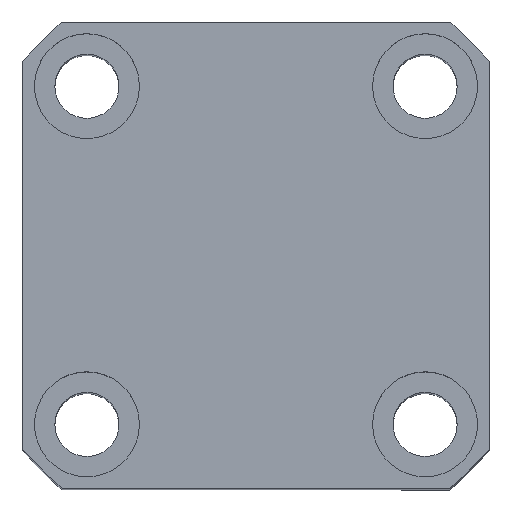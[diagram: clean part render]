
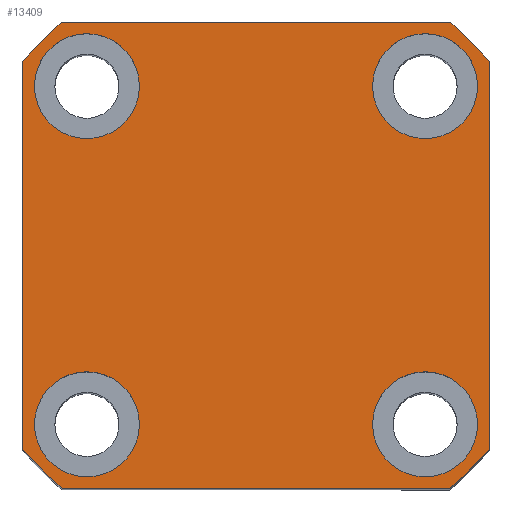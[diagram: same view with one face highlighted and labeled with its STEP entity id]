
A CAD part, top view. The second image highlights one B-rep face of the part: STEP entity #13409.
In plain terms, the highlighted planar face has unit normal (0, 0, 1).
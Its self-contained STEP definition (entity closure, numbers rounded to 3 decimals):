
#40 = VERTEX_POINT ( 'NONE', #4918 ) ;
#42 = CARTESIAN_POINT ( 'NONE',  ( -29., 29., 77.5 ) ) ;
#57 = EDGE_CURVE ( 'NONE', #14436, #8020, #3162, .T. ) ;
#196 = DIRECTION ( 'NONE',  ( 0., 0., 1. ) ) ;
#223 = CARTESIAN_POINT ( 'NONE',  ( 33.226, -40., 77.5 ) ) ;
#313 = DIRECTION ( 'NONE',  ( 0., 0., 1. ) ) ;
#467 = DIRECTION ( 'NONE',  ( 0., 0., 1. ) ) ;
#651 = AXIS2_PLACEMENT_3D ( 'NONE', #4004, #7272, #8402 ) ;
#722 = VERTEX_POINT ( 'NONE', #14266 ) ;
#785 = EDGE_CURVE ( 'NONE', #8020, #9968, #1554, .T. ) ;
#815 = DIRECTION ( 'NONE',  ( 1., 0., 0. ) ) ;
#848 = AXIS2_PLACEMENT_3D ( 'NONE', #42, #196, #9161 ) ;
#917 = CARTESIAN_POINT ( 'NONE',  ( -38., 29., 77.5 ) ) ;
#941 = CIRCLE ( 'NONE', #8371, 9. ) ;
#1349 = EDGE_CURVE ( 'NONE', #2205, #4900, #4366, .T. ) ;
#1404 = VERTEX_POINT ( 'NONE', #3071 ) ;
#1521 = DIRECTION ( 'NONE',  ( 1., 0., 0. ) ) ;
#1554 = LINE ( 'NONE', #8767, #12448 ) ;
#1737 = CARTESIAN_POINT ( 'NONE',  ( -29., 29., 77.5 ) ) ;
#1824 = ORIENTED_EDGE ( 'NONE', *, *, #8186, .T. ) ;
#1828 = LINE ( 'NONE', #3862, #4707 ) ;
#1883 = CARTESIAN_POINT ( 'NONE',  ( -20., 29., 77.5 ) ) ;
#2017 = CARTESIAN_POINT ( 'NONE',  ( -20., -29., 77.5 ) ) ;
#2145 = DIRECTION ( 'NONE',  ( 0., -1., 0. ) ) ;
#2169 = ORIENTED_EDGE ( 'NONE', *, *, #4666, .F. ) ;
#2191 = CIRCLE ( 'NONE', #6853, 9. ) ;
#2205 = VERTEX_POINT ( 'NONE', #223 ) ;
#2253 = DIRECTION ( 'NONE',  ( 0., 0., 1. ) ) ;
#2628 = EDGE_CURVE ( 'NONE', #9968, #40, #5794, .T. ) ;
#2639 = DIRECTION ( 'NONE',  ( 0., 0., 1. ) ) ;
#2853 = CARTESIAN_POINT ( 'NONE',  ( -33.226, 40., 77.5 ) ) ;
#2890 = EDGE_LOOP ( 'NONE', ( #6733, #8004, #1824, #4550, #7102, #3010, #13913, #12627 ) ) ;
#3010 = ORIENTED_EDGE ( 'NONE', *, *, #13060, .T. ) ;
#3071 = CARTESIAN_POINT ( 'NONE',  ( -40., -33.226, 77.5 ) ) ;
#3125 = AXIS2_PLACEMENT_3D ( 'NONE', #10380, #5892, #5743 ) ;
#3162 = CIRCLE ( 'NONE', #5419, 52. ) ;
#3308 = ORIENTED_EDGE ( 'NONE', *, *, #5573, .F. ) ;
#3451 = EDGE_CURVE ( 'NONE', #722, #12836, #4156, .T. ) ;
#3645 = DIRECTION ( 'NONE',  ( 0., 0., 1. ) ) ;
#3862 = CARTESIAN_POINT ( 'NONE',  ( -33.226, -40., 77.5 ) ) ;
#3980 = DIRECTION ( 'NONE',  ( 1., 0., 0. ) ) ;
#3999 = EDGE_CURVE ( 'NONE', #4669, #2205, #1828, .T. ) ;
#4004 = CARTESIAN_POINT ( 'NONE',  ( 29., -29., 77.5 ) ) ;
#4110 = FACE_OUTER_BOUND ( 'NONE', #2890, .T. ) ;
#4156 = CIRCLE ( 'NONE', #9112, 9. ) ;
#4303 = CIRCLE ( 'NONE', #4549, 9. ) ;
#4366 = CIRCLE ( 'NONE', #6861, 52. ) ;
#4461 = FACE_BOUND ( 'NONE', #7949, .T. ) ;
#4549 = AXIS2_PLACEMENT_3D ( 'NONE', #14132, #467, #13086 ) ;
#4550 = ORIENTED_EDGE ( 'NONE', *, *, #3999, .T. ) ;
#4634 = VECTOR ( 'NONE', #5052, 1000. ) ;
#4666 = EDGE_CURVE ( 'NONE', #14755, #9790, #7376, .T. ) ;
#4669 = VERTEX_POINT ( 'NONE', #8184 ) ;
#4707 = VECTOR ( 'NONE', #1521, 1000. ) ;
#4714 = CARTESIAN_POINT ( 'NONE',  ( -29., -29., 77.5 ) ) ;
#4862 = CIRCLE ( 'NONE', #651, 9. ) ;
#4900 = VERTEX_POINT ( 'NONE', #11248 ) ;
#4918 = CARTESIAN_POINT ( 'NONE',  ( -40., 33.226, 77.5 ) ) ;
#5052 = DIRECTION ( 'NONE',  ( 0., 1., 0. ) ) ;
#5125 = DIRECTION ( 'NONE',  ( 0., 0., 1. ) ) ;
#5328 = AXIS2_PLACEMENT_3D ( 'NONE', #12644, #2253, #5863 ) ;
#5336 = EDGE_LOOP ( 'NONE', ( #6966, #2169 ) ) ;
#5419 = AXIS2_PLACEMENT_3D ( 'NONE', #9228, #313, #10434 ) ;
#5573 = EDGE_CURVE ( 'NONE', #12617, #13883, #4303, .T. ) ;
#5743 = DIRECTION ( 'NONE',  ( 1., 0., 0. ) ) ;
#5794 = CIRCLE ( 'NONE', #3125, 52. ) ;
#5863 = DIRECTION ( 'NONE',  ( 1., 0., 0. ) ) ;
#5892 = DIRECTION ( 'NONE',  ( 0., 0., 1. ) ) ;
#5999 = AXIS2_PLACEMENT_3D ( 'NONE', #9742, #6512, #815 ) ;
#6111 = LINE ( 'NONE', #12392, #14477 ) ;
#6242 = EDGE_CURVE ( 'NONE', #40, #1404, #6111, .T. ) ;
#6248 = CARTESIAN_POINT ( 'NONE',  ( 20., 29., 77.5 ) ) ;
#6300 = ORIENTED_EDGE ( 'NONE', *, *, #3451, .F. ) ;
#6427 = CARTESIAN_POINT ( 'NONE',  ( 0., 0., 77.5 ) ) ;
#6432 = VERTEX_POINT ( 'NONE', #7605 ) ;
#6512 = DIRECTION ( 'NONE',  ( 0., 0., 1. ) ) ;
#6623 = DIRECTION ( 'NONE',  ( 1., 0., 0. ) ) ;
#6733 = ORIENTED_EDGE ( 'NONE', *, *, #2628, .T. ) ;
#6853 = AXIS2_PLACEMENT_3D ( 'NONE', #4714, #7021, #11608 ) ;
#6861 = AXIS2_PLACEMENT_3D ( 'NONE', #12165, #12215, #7769 ) ;
#6966 = ORIENTED_EDGE ( 'NONE', *, *, #7672, .F. ) ;
#7021 = DIRECTION ( 'NONE',  ( 0., 0., 1. ) ) ;
#7102 = ORIENTED_EDGE ( 'NONE', *, *, #1349, .T. ) ;
#7146 = EDGE_LOOP ( 'NONE', ( #6300, #11672 ) ) ;
#7268 = EDGE_CURVE ( 'NONE', #12836, #722, #4862, .T. ) ;
#7272 = DIRECTION ( 'NONE',  ( 0., 0., 1. ) ) ;
#7376 = CIRCLE ( 'NONE', #11077, 9. ) ;
#7388 = VERTEX_POINT ( 'NONE', #2017 ) ;
#7463 = DIRECTION ( 'NONE',  ( 1., 0., 0. ) ) ;
#7496 = DIRECTION ( 'NONE',  ( -1., 0., 0. ) ) ;
#7605 = CARTESIAN_POINT ( 'NONE',  ( -38., -29., 77.5 ) ) ;
#7672 = EDGE_CURVE ( 'NONE', #9790, #14755, #8930, .T. ) ;
#7769 = DIRECTION ( 'NONE',  ( 1., 0., 0. ) ) ;
#7949 = EDGE_LOOP ( 'NONE', ( #3308, #8526 ) ) ;
#8004 = ORIENTED_EDGE ( 'NONE', *, *, #6242, .T. ) ;
#8020 = VERTEX_POINT ( 'NONE', #9296 ) ;
#8024 = FACE_BOUND ( 'NONE', #5336, .T. ) ;
#8184 = CARTESIAN_POINT ( 'NONE',  ( -33.226, -40., 77.5 ) ) ;
#8186 = EDGE_CURVE ( 'NONE', #1404, #4669, #11970, .T. ) ;
#8236 = CARTESIAN_POINT ( 'NONE',  ( 38., 29., 77.5 ) ) ;
#8371 = AXIS2_PLACEMENT_3D ( 'NONE', #11072, #10005, #6623 ) ;
#8379 = CARTESIAN_POINT ( 'NONE',  ( 29., -29., 77.5 ) ) ;
#8402 = DIRECTION ( 'NONE',  ( 1., 0., 0. ) ) ;
#8526 = ORIENTED_EDGE ( 'NONE', *, *, #14493, .F. ) ;
#8705 = EDGE_LOOP ( 'NONE', ( #12286, #14214 ) ) ;
#8767 = CARTESIAN_POINT ( 'NONE',  ( -33.226, 40., 77.5 ) ) ;
#8930 = CIRCLE ( 'NONE', #848, 9. ) ;
#9112 = AXIS2_PLACEMENT_3D ( 'NONE', #8379, #2639, #3980 ) ;
#9161 = DIRECTION ( 'NONE',  ( 1., 0., 0. ) ) ;
#9228 = CARTESIAN_POINT ( 'NONE',  ( 0., 0., 77.5 ) ) ;
#9296 = CARTESIAN_POINT ( 'NONE',  ( 33.226, 40., 77.5 ) ) ;
#9732 = DIRECTION ( 'NONE',  ( 1., 0., 0. ) ) ;
#9742 = CARTESIAN_POINT ( 'NONE',  ( 0., 0., 77.5 ) ) ;
#9790 = VERTEX_POINT ( 'NONE', #1883 ) ;
#9968 = VERTEX_POINT ( 'NONE', #2853 ) ;
#10005 = DIRECTION ( 'NONE',  ( 0., 0., 1. ) ) ;
#10380 = CARTESIAN_POINT ( 'NONE',  ( 0., 0., 77.5 ) ) ;
#10434 = DIRECTION ( 'NONE',  ( 1., 0., 0. ) ) ;
#11072 = CARTESIAN_POINT ( 'NONE',  ( -29., -29., 77.5 ) ) ;
#11077 = AXIS2_PLACEMENT_3D ( 'NONE', #1737, #3645, #9732 ) ;
#11248 = CARTESIAN_POINT ( 'NONE',  ( 40., -33.226, 77.5 ) ) ;
#11553 = CARTESIAN_POINT ( 'NONE',  ( 40., 33.226, 77.5 ) ) ;
#11608 = DIRECTION ( 'NONE',  ( 1., 0., 0. ) ) ;
#11672 = ORIENTED_EDGE ( 'NONE', *, *, #7268, .F. ) ;
#11970 = CIRCLE ( 'NONE', #5999, 52. ) ;
#12165 = CARTESIAN_POINT ( 'NONE',  ( 0., 0., 77.5 ) ) ;
#12215 = DIRECTION ( 'NONE',  ( 0., 0., 1. ) ) ;
#12286 = ORIENTED_EDGE ( 'NONE', *, *, #14603, .F. ) ;
#12392 = CARTESIAN_POINT ( 'NONE',  ( -40., 33.226, 77.5 ) ) ;
#12448 = VECTOR ( 'NONE', #7496, 1000. ) ;
#12617 = VERTEX_POINT ( 'NONE', #8236 ) ;
#12627 = ORIENTED_EDGE ( 'NONE', *, *, #785, .T. ) ;
#12644 = CARTESIAN_POINT ( 'NONE',  ( 29., 29., 77.5 ) ) ;
#12836 = VERTEX_POINT ( 'NONE', #13084 ) ;
#13060 = EDGE_CURVE ( 'NONE', #4900, #14436, #13393, .T. ) ;
#13084 = CARTESIAN_POINT ( 'NONE',  ( 20., -29., 77.5 ) ) ;
#13086 = DIRECTION ( 'NONE',  ( 1., 0., 0. ) ) ;
#13393 = LINE ( 'NONE', #14258, #4634 ) ;
#13409 = ADVANCED_FACE ( 'NONE', ( #13930, #14105, #8024, #4461, #4110 ), #14340, .T. ) ;
#13602 = AXIS2_PLACEMENT_3D ( 'NONE', #6427, #5125, #7463 ) ;
#13883 = VERTEX_POINT ( 'NONE', #6248 ) ;
#13913 = ORIENTED_EDGE ( 'NONE', *, *, #57, .T. ) ;
#13930 = FACE_BOUND ( 'NONE', #7146, .T. ) ;
#13988 = CIRCLE ( 'NONE', #5328, 9. ) ;
#14105 = FACE_BOUND ( 'NONE', #8705, .T. ) ;
#14132 = CARTESIAN_POINT ( 'NONE',  ( 29., 29., 77.5 ) ) ;
#14214 = ORIENTED_EDGE ( 'NONE', *, *, #14441, .F. ) ;
#14258 = CARTESIAN_POINT ( 'NONE',  ( 40., 33.226, 77.5 ) ) ;
#14266 = CARTESIAN_POINT ( 'NONE',  ( 38., -29., 77.5 ) ) ;
#14340 = PLANE ( 'NONE',  #13602 ) ;
#14436 = VERTEX_POINT ( 'NONE', #11553 ) ;
#14441 = EDGE_CURVE ( 'NONE', #6432, #7388, #2191, .T. ) ;
#14477 = VECTOR ( 'NONE', #2145, 1000. ) ;
#14493 = EDGE_CURVE ( 'NONE', #13883, #12617, #13988, .T. ) ;
#14603 = EDGE_CURVE ( 'NONE', #7388, #6432, #941, .T. ) ;
#14755 = VERTEX_POINT ( 'NONE', #917 ) ;
